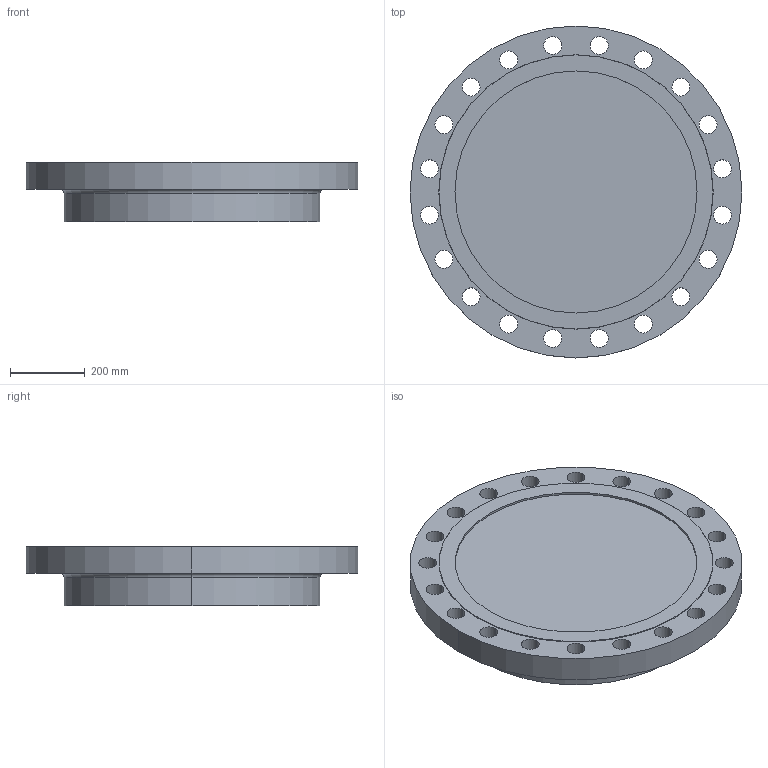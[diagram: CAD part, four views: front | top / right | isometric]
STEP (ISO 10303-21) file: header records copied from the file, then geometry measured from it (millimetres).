
FILE_DESCRIPTION (( 'STEP AP214' ), '1' );
FILE_NAME ('PN40 DN600 Type 21(i) - Type G Face.STEP', '2018-12-29T04:39:41', ( '' ), ( '' ), 'SwSTEP 2.0', 'SolidWorks 2019', '' );
FILE_SCHEMA (( 'AUTOMOTIVE_DESIGN' ));
Length unit declared in the file: millimetre
Products named in the file (1): PN40 DN600 Type 21(i) - Type G Face
Bounding box: 890 x 890 x 160 mm (x, y, z)
Volume: 72636912.3 mm3; surface area: 1772388.4 mm2
Topology: 1 solids, 1 shells, 55 faces, 148 edges, 98 vertices
Faces by surface type: cylinder 46, plane 5, torus 2, cone 2
Entity records: 1900 total; most frequent: DIRECTION 360, CARTESIAN_POINT 302, ORIENTED_EDGE 296, AXIS2_PLACEMENT_3D 156, EDGE_CURVE 148, CIRCLE 100, VERTEX_POINT 98, EDGE_LOOP 98
